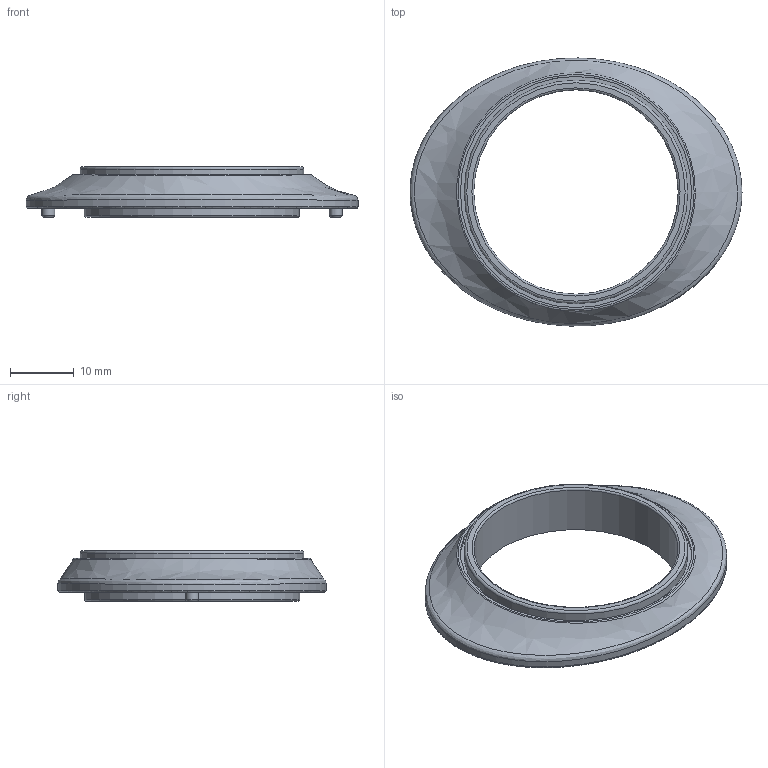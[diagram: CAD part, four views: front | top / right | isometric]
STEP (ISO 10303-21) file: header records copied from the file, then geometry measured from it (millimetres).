
FILE_DESCRIPTION(('Open CASCADE Model'),'2;1');
FILE_NAME('Open CASCADE Shape Model','2026-11-01T16:32:06',('Author'),( 'Open CASCADE'),'Open CASCADE STEP processor 8.0','build123d', 'Unknown');
FILE_SCHEMA(('AUTOMOTIVE_DESIGN { 1 0 10303 214 1 1 1 1 }'));
Length unit declared in the file: millimetre
Products named in the file (1): SOLID
Bounding box: 51.99 x 41.98 x 7.9 mm (x, y, z)
Volume: 2760.7 mm3; surface area: 4067.6 mm2
Topology: 1 solids, 1 shells, 64 faces, 144 edges, 93 vertices
Faces by surface type: plane 25, offset 15, cylinder 14, torus 5, bspline 4, extrusion 1
Full cylindrical faces by diameter (mm): 2 x2, 32 x1, 33.7 x1, 35 x1, 36.2 x1
Entity records: 25473 total; most frequent: CARTESIAN_POINT 22910, DIRECTION 340, ORIENTED_EDGE 288, PCURVE 288, DEFINITIONAL_REPRESENTATION 288, B_SPLINE_CURVE_WITH_KNOTS 232, EDGE_CURVE 144, VECTOR 136
